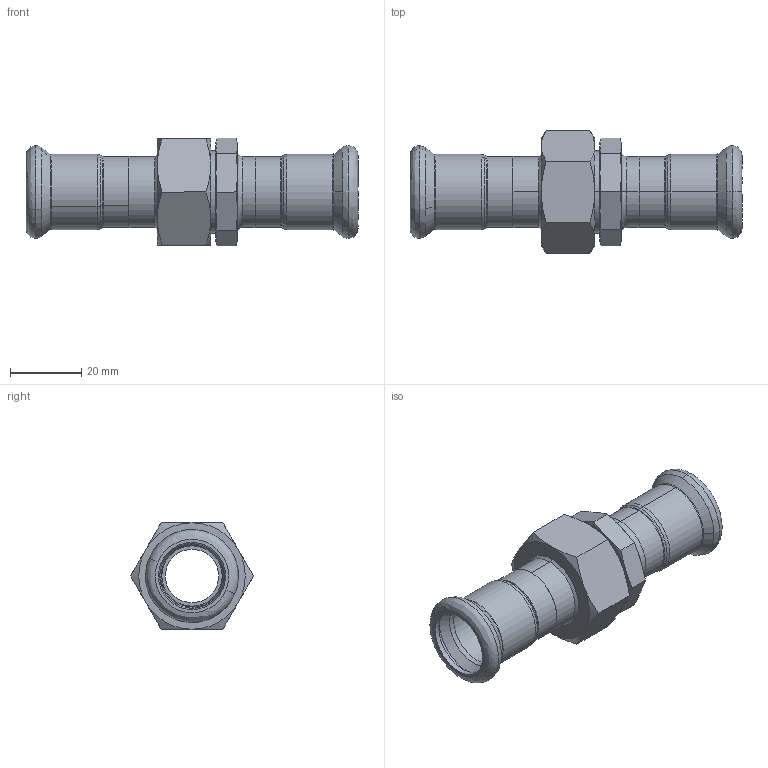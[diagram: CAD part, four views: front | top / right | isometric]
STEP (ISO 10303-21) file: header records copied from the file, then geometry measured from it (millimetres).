
FILE_DESCRIPTION (( 'STEP AP203' ), '1' );
FILE_NAME ('GDA5472.STEP', '2019-01-17T02:33:37', ( '' ), ( '' ), 'SwSTEP 2.0', 'SolidWorks 2015', '' );
FILE_SCHEMA (( 'CONFIG_CONTROL_DESIGN' ));
Length unit declared in the file: millimetre
Products named in the file (6): UN-Ⅰ-01×_; T-ｉ-01-18; 0.75; ZL-Ⅰ-01×_; GDA5472; 18｡ﾁ_
Assembly tree (6 placements, depth 2):
  GDA5472
    18｡ﾁ_
    T-ｉ-01-18  x2
    ZL-Ⅰ-01×_
    UN-Ⅰ-01×_
    0.75
Bounding box: 93.5 x 34.64 x 30.31 mm (x, y, z)
Volume: 19273.6 mm3; surface area: 18062.3 mm2
Topology: 6 solids, 6 shells, 178 faces, 374 edges, 215 vertices
Faces by surface type: cone 57, cylinder 46, bspline 42, plane 33
Entity records: 5031 total; most frequent: CARTESIAN_POINT 1525, DIRECTION 629, ORIENTED_EDGE 576, EDGE_CURVE 288, AXIS2_PLACEMENT_3D 279, VERTEX_POINT 167, CIRCLE 155, EDGE_LOOP 153
